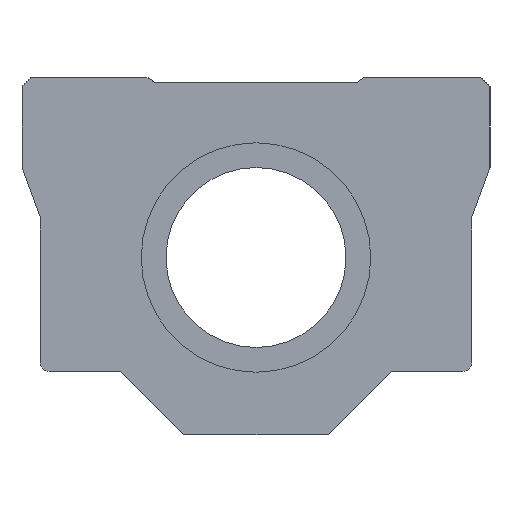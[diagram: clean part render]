
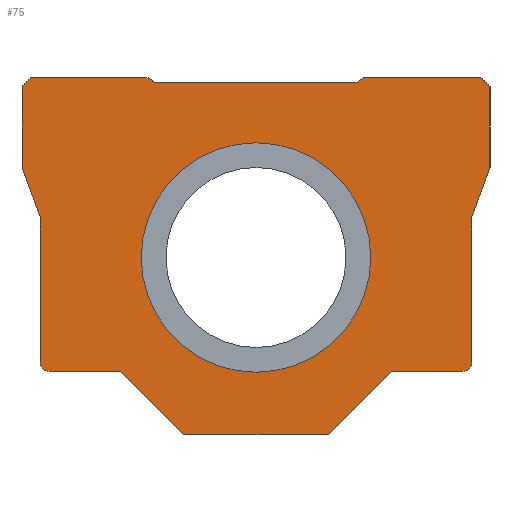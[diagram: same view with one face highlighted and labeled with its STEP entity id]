
A CAD part, left-side view. The second image highlights one B-rep face of the part: STEP entity #75.
In plain terms, the highlighted planar face has unit normal (-1, 0, 0).
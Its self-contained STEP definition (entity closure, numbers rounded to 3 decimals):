
#75 = ADVANCED_FACE( '', ( #181, #182 ), #183, .F. );
#181 = FACE_BOUND( '', #332, .T. );
#182 = FACE_OUTER_BOUND( '', #333, .T. );
#183 = PLANE( '', #334 );
#332 = EDGE_LOOP( '', ( #498 ) );
#333 = EDGE_LOOP( '', ( #499, #500, #501, #502, #503, #504, #505, #506, #507, #508, #509, #510, #511, #512, #513, #514, #515, #516, #517, #518 ) );
#334 = AXIS2_PLACEMENT_3D( '', #519, #520, #521 );
#498 = ORIENTED_EDGE( '', *, *, #799, .T. );
#499 = ORIENTED_EDGE( '', *, *, #800, .F. );
#500 = ORIENTED_EDGE( '', *, *, #801, .F. );
#501 = ORIENTED_EDGE( '', *, *, #802, .F. );
#502 = ORIENTED_EDGE( '', *, *, #803, .F. );
#503 = ORIENTED_EDGE( '', *, *, #781, .F. );
#504 = ORIENTED_EDGE( '', *, *, #804, .F. );
#505 = ORIENTED_EDGE( '', *, *, #805, .F. );
#506 = ORIENTED_EDGE( '', *, *, #806, .F. );
#507 = ORIENTED_EDGE( '', *, *, #807, .F. );
#508 = ORIENTED_EDGE( '', *, *, #808, .F. );
#509 = ORIENTED_EDGE( '', *, *, #809, .T. );
#510 = ORIENTED_EDGE( '', *, *, #776, .T. );
#511 = ORIENTED_EDGE( '', *, *, #810, .T. );
#512 = ORIENTED_EDGE( '', *, *, #811, .F. );
#513 = ORIENTED_EDGE( '', *, *, #812, .F. );
#514 = ORIENTED_EDGE( '', *, *, #813, .F. );
#515 = ORIENTED_EDGE( '', *, *, #814, .F. );
#516 = ORIENTED_EDGE( '', *, *, #815, .F. );
#517 = ORIENTED_EDGE( '', *, *, #816, .F. );
#518 = ORIENTED_EDGE( '', *, *, #791, .F. );
#519 = CARTESIAN_POINT( '', ( 0., 0., 0. ) );
#520 = DIRECTION( '', ( 1., 0., 0. ) );
#521 = DIRECTION( '', ( 0., 1., 0. ) );
#776 = EDGE_CURVE( '', #900, #898, #901, .T. );
#781 = EDGE_CURVE( '', #907, #909, #910, .T. );
#791 = EDGE_CURVE( '', #925, #927, #928, .T. );
#799 = EDGE_CURVE( '', #939, #939, #940, .T. );
#800 = EDGE_CURVE( '', #941, #925, #942, .T. );
#801 = EDGE_CURVE( '', #943, #941, #944, .T. );
#802 = EDGE_CURVE( '', #945, #943, #946, .T. );
#803 = EDGE_CURVE( '', #909, #945, #947, .T. );
#804 = EDGE_CURVE( '', #948, #907, #949, .T. );
#805 = EDGE_CURVE( '', #950, #948, #951, .T. );
#806 = EDGE_CURVE( '', #952, #950, #953, .T. );
#807 = EDGE_CURVE( '', #954, #952, #955, .T. );
#808 = EDGE_CURVE( '', #956, #954, #957, .T. );
#809 = EDGE_CURVE( '', #956, #900, #958, .T. );
#810 = EDGE_CURVE( '', #898, #959, #960, .T. );
#811 = EDGE_CURVE( '', #961, #959, #962, .T. );
#812 = EDGE_CURVE( '', #963, #961, #964, .T. );
#813 = EDGE_CURVE( '', #965, #963, #966, .T. );
#814 = EDGE_CURVE( '', #967, #965, #968, .T. );
#815 = EDGE_CURVE( '', #969, #967, #970, .T. );
#816 = EDGE_CURVE( '', #927, #969, #971, .T. );
#898 = VERTEX_POINT( '', #1082 );
#900 = VERTEX_POINT( '', #1085 );
#901 = LINE( '', #1086, #1087 );
#907 = VERTEX_POINT( '', #1094 );
#909 = VERTEX_POINT( '', #1097 );
#910 = CIRCLE( '', #1098, 1.5 );
#925 = VERTEX_POINT( '', #1115 );
#927 = VERTEX_POINT( '', #1118 );
#928 = LINE( '', #1119, #1120 );
#939 = VERTEX_POINT( '', #1132 );
#940 = CIRCLE( '', #1133, 19.125 );
#941 = VERTEX_POINT( '', #1134 );
#942 = LINE( '', #1135, #1136 );
#943 = VERTEX_POINT( '', #1137 );
#944 = LINE( '', #1138, #1139 );
#945 = VERTEX_POINT( '', #1140 );
#946 = LINE( '', #1141, #1142 );
#947 = LINE( '', #1143, #1144 );
#948 = VERTEX_POINT( '', #1145 );
#949 = LINE( '', #1146, #1147 );
#950 = VERTEX_POINT( '', #1148 );
#951 = LINE( '', #1149, #1150 );
#952 = VERTEX_POINT( '', #1151 );
#953 = LINE( '', #1152, #1153 );
#954 = VERTEX_POINT( '', #1154 );
#955 = LINE( '', #1155, #1156 );
#956 = VERTEX_POINT( '', #1157 );
#957 = LINE( '', #1158, #1159 );
#958 = LINE( '', #1160, #1161 );
#959 = VERTEX_POINT( '', #1162 );
#960 = LINE( '', #1163, #1164 );
#961 = VERTEX_POINT( '', #1165 );
#962 = LINE( '', #1166, #1167 );
#963 = VERTEX_POINT( '', #1168 );
#964 = LINE( '', #1169, #1170 );
#965 = VERTEX_POINT( '', #1171 );
#966 = LINE( '', #1172, #1173 );
#967 = VERTEX_POINT( '', #1174 );
#968 = LINE( '', #1175, #1176 );
#969 = VERTEX_POINT( '', #1177 );
#970 = LINE( '', #1178, #1179 );
#971 = CIRCLE( '', #1180, 1.5 );
#1082 = CARTESIAN_POINT( '', ( 0., 17., 29.25 ) );
#1085 = CARTESIAN_POINT( '', ( 0., -17., 29.25 ) );
#1086 = CARTESIAN_POINT( '', ( 0., 8.5, 29.25 ) );
#1087 = VECTOR( '', #1318, 1000. );
#1094 = CARTESIAN_POINT( '', ( 0., -36., -17.5 ) );
#1097 = CARTESIAN_POINT( '', ( 0., -34.5, -19. ) );
#1098 = AXIS2_PLACEMENT_3D( '', #1324, #1325, #1326 );
#1115 = CARTESIAN_POINT( '', ( 0., 22.567, -19. ) );
#1118 = CARTESIAN_POINT( '', ( 0., 34.5, -19. ) );
#1119 = CARTESIAN_POINT( '', ( 0., 22.567, -19. ) );
#1120 = VECTOR( '', #1342, 1000. );
#1132 = CARTESIAN_POINT( '', ( 0., 19.125, 0. ) );
#1133 = AXIS2_PLACEMENT_3D( '', #1353, #1354, #1355 );
#1134 = CARTESIAN_POINT( '', ( 0., 12.067, -29.5 ) );
#1135 = CARTESIAN_POINT( '', ( 0., 20.783, -20.783 ) );
#1136 = VECTOR( '', #1356, 1000. );
#1137 = CARTESIAN_POINT( '', ( 0., -12.067, -29.5 ) );
#1138 = CARTESIAN_POINT( '', ( 0., -12.067, -29.5 ) );
#1139 = VECTOR( '', #1357, 1000. );
#1140 = CARTESIAN_POINT( '', ( 0., -22.567, -19. ) );
#1141 = CARTESIAN_POINT( '', ( 0., -20.783, -20.783 ) );
#1142 = VECTOR( '', #1358, 1000. );
#1143 = CARTESIAN_POINT( '', ( 0., -34.5, -19. ) );
#1144 = VECTOR( '', #1359, 1000. );
#1145 = CARTESIAN_POINT( '', ( 0., -36., 6.758 ) );
#1146 = CARTESIAN_POINT( '', ( 0., -36., 6.758 ) );
#1147 = VECTOR( '', #1360, 1000. );
#1148 = CARTESIAN_POINT( '', ( 0., -39., 15. ) );
#1149 = CARTESIAN_POINT( '', ( 0., -39., 15. ) );
#1150 = VECTOR( '', #1361, 1000. );
#1151 = CARTESIAN_POINT( '', ( 0., -39., 28.5 ) );
#1152 = CARTESIAN_POINT( '', ( 0., -39., 28.5 ) );
#1153 = VECTOR( '', #1362, 1000. );
#1154 = CARTESIAN_POINT( '', ( 0., -37.5, 30. ) );
#1155 = CARTESIAN_POINT( '', ( 0., -37.5, 30. ) );
#1156 = VECTOR( '', #1363, 1000. );
#1157 = CARTESIAN_POINT( '', ( 0., -18., 30. ) );
#1158 = CARTESIAN_POINT( '', ( 0., 37.5, 30. ) );
#1159 = VECTOR( '', #1364, 1000. );
#1160 = CARTESIAN_POINT( '', ( 0., -4.54, 19.905 ) );
#1161 = VECTOR( '', #1365, 1000. );
#1162 = CARTESIAN_POINT( '', ( 0., 18., 30. ) );
#1163 = CARTESIAN_POINT( '', ( 0., 5.04, 20.28 ) );
#1164 = VECTOR( '', #1366, 1000. );
#1165 = CARTESIAN_POINT( '', ( 0., 37.5, 30. ) );
#1166 = CARTESIAN_POINT( '', ( 0., 37.5, 30. ) );
#1167 = VECTOR( '', #1367, 1000. );
#1168 = CARTESIAN_POINT( '', ( 0., 39., 28.5 ) );
#1169 = CARTESIAN_POINT( '', ( 0., 39., 28.5 ) );
#1170 = VECTOR( '', #1368, 1000. );
#1171 = CARTESIAN_POINT( '', ( 0., 39., 15. ) );
#1172 = CARTESIAN_POINT( '', ( 0., 39., 15. ) );
#1173 = VECTOR( '', #1369, 1000. );
#1174 = CARTESIAN_POINT( '', ( 0., 36., 6.758 ) );
#1175 = CARTESIAN_POINT( '', ( 0., 36., 6.758 ) );
#1176 = VECTOR( '', #1370, 1000. );
#1177 = CARTESIAN_POINT( '', ( 0., 36., -17.5 ) );
#1178 = CARTESIAN_POINT( '', ( 0., 36., -17.5 ) );
#1179 = VECTOR( '', #1371, 1000. );
#1180 = AXIS2_PLACEMENT_3D( '', #1372, #1373, #1374 );
#1318 = DIRECTION( '', ( 0., 1., 0. ) );
#1324 = CARTESIAN_POINT( '', ( 0., -34.5, -17.5 ) );
#1325 = DIRECTION( '', ( 1., 0., 0. ) );
#1326 = DIRECTION( '', ( 0., -1., 0. ) );
#1342 = DIRECTION( '', ( 0., 1., 0. ) );
#1353 = CARTESIAN_POINT( '', ( 0., 0., 0. ) );
#1354 = DIRECTION( '', ( 1., 0., 0. ) );
#1355 = DIRECTION( '', ( 0., 1., 0. ) );
#1356 = DIRECTION( '', ( 0., 0.707, 0.707 ) );
#1357 = DIRECTION( '', ( 0., 1., 0. ) );
#1358 = DIRECTION( '', ( 0., 0.707, -0.707 ) );
#1359 = DIRECTION( '', ( 0., 1., 0. ) );
#1360 = DIRECTION( '', ( 0., 0., -1. ) );
#1361 = DIRECTION( '', ( 0., 0.342, -0.94 ) );
#1362 = DIRECTION( '', ( 0., 0., -1. ) );
#1363 = DIRECTION( '', ( 0., -0.707, -0.707 ) );
#1364 = DIRECTION( '', ( 0., -1., 0. ) );
#1365 = DIRECTION( '', ( 0., 0.8, -0.6 ) );
#1366 = DIRECTION( '', ( 0., 0.8, 0.6 ) );
#1367 = DIRECTION( '', ( 0., -1., 0. ) );
#1368 = DIRECTION( '', ( 0., -0.707, 0.707 ) );
#1369 = DIRECTION( '', ( 0., 0., 1. ) );
#1370 = DIRECTION( '', ( 0., 0.342, 0.94 ) );
#1371 = DIRECTION( '', ( 0., 0., 1. ) );
#1372 = CARTESIAN_POINT( '', ( 0., 34.5, -17.5 ) );
#1373 = DIRECTION( '', ( 1., 0., 0. ) );
#1374 = DIRECTION( '', ( 0., 0., -1. ) );
